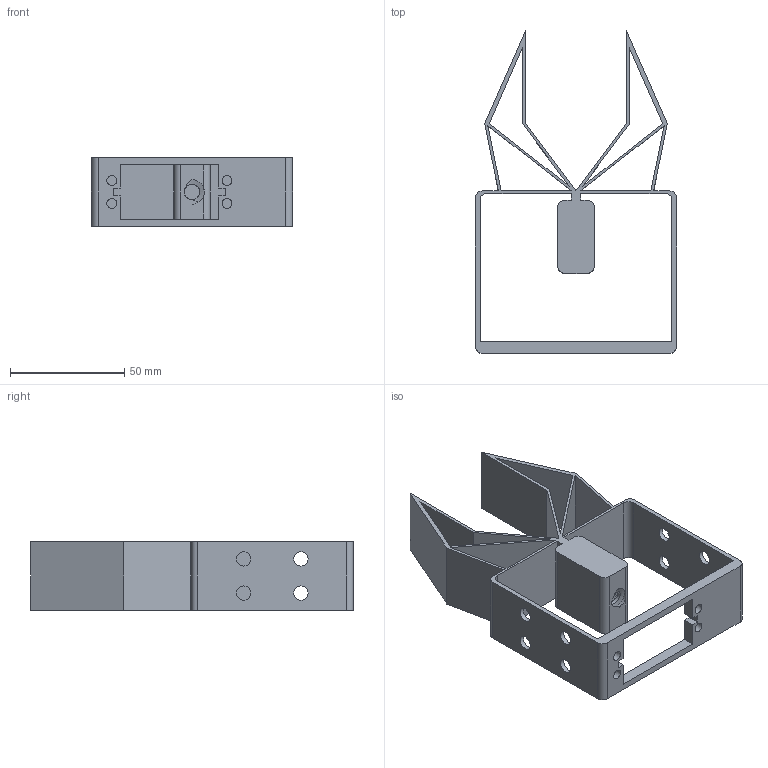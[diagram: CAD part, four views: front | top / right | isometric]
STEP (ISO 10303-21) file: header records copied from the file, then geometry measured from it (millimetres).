
FILE_DESCRIPTION(/* description */ ('STEP AP242 Edition 2','CAx-IF Rec.Pracs.---Representation and Presentation of Product Manufacturing Information (PMI)---4.0---2014-10-13','CAx-IF Rec.Pracs.---3D Tessellated Geometry---0.4---2014-09-14','2;1','CAx-IF Rec.Pracs.---User Defined Attributes---1.5---2016-08-15'),/* implementation_level */ '2;1');
FILE_NAME(/* name */ 'Assembly 1 - Part 1',/* time_stamp */ '2026-08-25T12:56:59Z',/* author */ (''),/* organization */ (''),/* preprocessor_version */ 'ST-DEVELOPER v20',/* originating_system */ 'ONSHAPE BY PTC INC, 1.219',/* authorisation */ ' ');
FILE_SCHEMA (('AP242_MANAGED_MODEL_BASED_3D_ENGINEERING_MIM_LF { 1 0 10303 442 3 1 4 }'));
Length unit declared in the file: metre
Products named in the file (1): Part 1
Bounding box: 88 x 141.3 x 30 mm (x, y, z)
Volume: 46522.3 mm3; surface area: 46802.2 mm2
Topology: 1 solids, 1 shells, 80 faces, 244 edges, 166 vertices
Faces by surface type: plane 54, cylinder 24, bspline 2
Full cylindrical faces by diameter (mm): 4.3 x4, 6.3 x8
Entity records: 3496 total; most frequent: CARTESIAN_POINT 1304, ORIENTED_EDGE 444, DIRECTION 420, EDGE_CURVE 222, LINE 164, VECTOR 164, VERTEX_POINT 156, EDGE_LOOP 128
